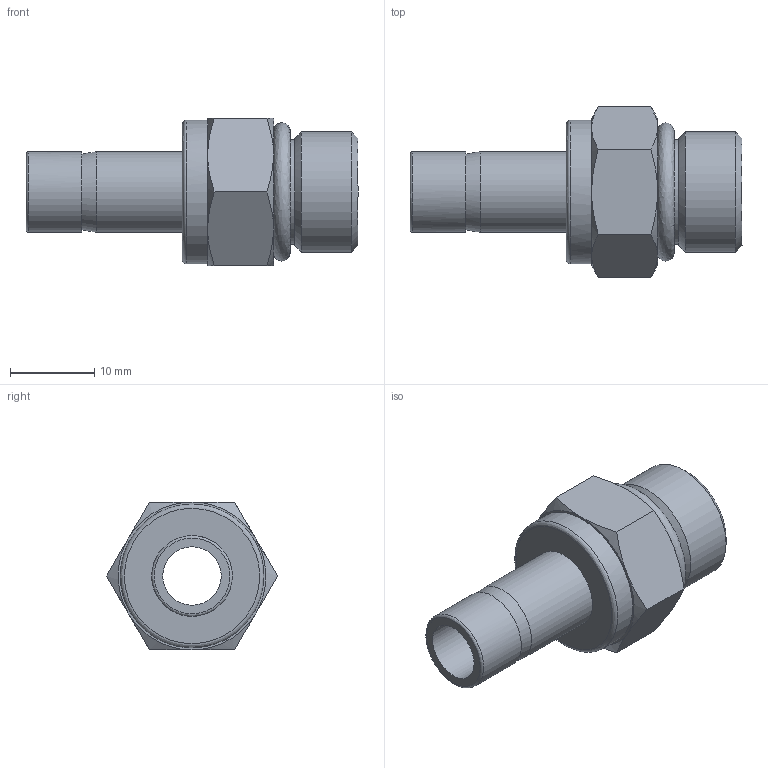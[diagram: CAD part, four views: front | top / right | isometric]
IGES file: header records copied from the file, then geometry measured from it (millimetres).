
Global section: file name: SSMA-6-6U; native system: Autodesk Inventor 2016; preprocessor: unknown; author: 배성훈,,11,0; organization: 20150903.101817; date: 20160125.095833; units: millimetre
Bounding box: 39.3 x 20.21 x 17.5 mm (x, y, z)
Volume: 4049.6 mm3; surface area: 3212.8 mm2
Topology: 1 solids, 3 shells, 41 faces, 98 edges, 65 vertices
Faces by surface type: bspline 41
